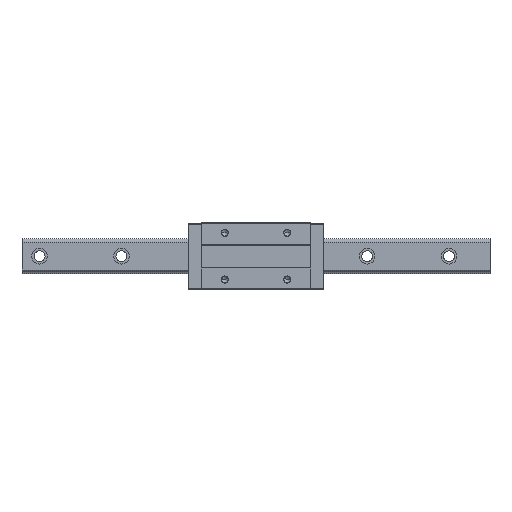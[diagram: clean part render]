
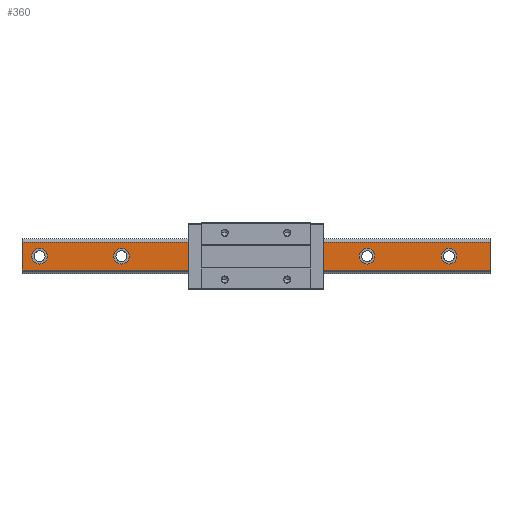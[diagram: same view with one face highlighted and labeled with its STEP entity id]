
A CAD part, top view. The second image highlights one B-rep face of the part: STEP entity #360.
In plain terms, the highlighted planar face has unit normal (0, 0, 1).
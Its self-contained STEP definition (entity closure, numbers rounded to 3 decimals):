
#1 = DIRECTION ( 'NONE',  ( 1., 0., 0. ) ) ;
#20 = CARTESIAN_POINT ( 'NONE',  ( 247.5, 0., 32. ) ) ;
#276 = AXIS2_PLACEMENT_3D ( 'NONE', #4456, #1462, #3193 ) ;
#347 = LINE ( 'NONE', #2092, #4652 ) ;
#349 = VECTOR ( 'NONE', #2094, 1000. ) ;
#357 = DIRECTION ( 'NONE',  ( 1., 0., 0. ) ) ;
#360 = ADVANCED_FACE ( 'NONE', ( #5163, #5113, #2915, #5055, #4231, #5534, #2591 ), #1204, .F. ) ;
#373 = CARTESIAN_POINT ( 'NONE',  ( 300., -17.696, 32. ) ) ;
#412 = DIRECTION ( 'NONE',  ( 1., 0., 0. ) ) ;
#420 = CIRCLE ( 'NONE', #1157, 10. ) ;
#425 = EDGE_CURVE ( 'NONE', #1844, #795, #2484, .T. ) ;
#448 = ORIENTED_EDGE ( 'NONE', *, *, #3651, .F. ) ;
#518 = CARTESIAN_POINT ( 'NONE',  ( -67.5, 0., 32. ) ) ;
#543 = CARTESIAN_POINT ( 'NONE',  ( -300., 17.696, 32. ) ) ;
#634 = EDGE_LOOP ( 'NONE', ( #2552, #2700, #673, #672 ) ) ;
#642 = DIRECTION ( 'NONE',  ( 1., 0., 0. ) ) ;
#672 = ORIENTED_EDGE ( 'NONE', *, *, #1591, .T. ) ;
#673 = ORIENTED_EDGE ( 'NONE', *, *, #2390, .F. ) ;
#753 = CARTESIAN_POINT ( 'NONE',  ( -300., -17.696, 32. ) ) ;
#788 = AXIS2_PLACEMENT_3D ( 'NONE', #2572, #4295, #412 ) ;
#795 = VERTEX_POINT ( 'NONE', #4684 ) ;
#942 = CARTESIAN_POINT ( 'NONE',  ( 142.5, 0., 32. ) ) ;
#985 = CARTESIAN_POINT ( 'NONE',  ( -172.5, 0., 32. ) ) ;
#1015 = CARTESIAN_POINT ( 'NONE',  ( 300., 17.696, 32. ) ) ;
#1019 = ORIENTED_EDGE ( 'NONE', *, *, #2933, .F. ) ;
#1023 = EDGE_CURVE ( 'NONE', #1619, #5344, #2898, .T. ) ;
#1079 = ORIENTED_EDGE ( 'NONE', *, *, #1692, .F. ) ;
#1120 = ORIENTED_EDGE ( 'NONE', *, *, #3212, .F. ) ;
#1157 = AXIS2_PLACEMENT_3D ( 'NONE', #1996, #1620, #357 ) ;
#1204 = PLANE ( 'NONE',  #4515 ) ;
#1241 = AXIS2_PLACEMENT_3D ( 'NONE', #985, #2293, #642 ) ;
#1302 = ORIENTED_EDGE ( 'NONE', *, *, #3309, .F. ) ;
#1362 = DIRECTION ( 'NONE',  ( 1., 0., 0. ) ) ;
#1452 = ORIENTED_EDGE ( 'NONE', *, *, #3830, .F. ) ;
#1462 = DIRECTION ( 'NONE',  ( 0., 0., 1. ) ) ;
#1503 = ORIENTED_EDGE ( 'NONE', *, *, #3579, .F. ) ;
#1513 = CARTESIAN_POINT ( 'NONE',  ( -267.5, 0., 32. ) ) ;
#1542 = EDGE_LOOP ( 'NONE', ( #3091, #3271 ) ) ;
#1591 = EDGE_CURVE ( 'NONE', #4438, #1844, #347, .T. ) ;
#1596 = AXIS2_PLACEMENT_3D ( 'NONE', #2515, #2889, #2490 ) ;
#1619 = VERTEX_POINT ( 'NONE', #4177 ) ;
#1620 = DIRECTION ( 'NONE',  ( 0., 0., 1. ) ) ;
#1692 = EDGE_CURVE ( 'NONE', #5603, #3533, #2941, .T. ) ;
#1700 = CARTESIAN_POINT ( 'NONE',  ( -182.5, 0., 32. ) ) ;
#1809 = CARTESIAN_POINT ( 'NONE',  ( 237.5, 0., 32. ) ) ;
#1815 = CARTESIAN_POINT ( 'NONE',  ( -77.5, 0., 32. ) ) ;
#1844 = VERTEX_POINT ( 'NONE', #543 ) ;
#1978 = CIRCLE ( 'NONE', #788, 10. ) ;
#1996 = CARTESIAN_POINT ( 'NONE',  ( 37.5, 0., 32. ) ) ;
#2055 = DIRECTION ( 'NONE',  ( 0., -1., 0. ) ) ;
#2092 = CARTESIAN_POINT ( 'NONE',  ( 300., 17.696, 32. ) ) ;
#2094 = DIRECTION ( 'NONE',  ( 0., -1., 0. ) ) ;
#2102 = AXIS2_PLACEMENT_3D ( 'NONE', #20, #5183, #2170 ) ;
#2120 = CARTESIAN_POINT ( 'NONE',  ( 300., -17.696, 32. ) ) ;
#2126 = AXIS2_PLACEMENT_3D ( 'NONE', #3489, #3836, #5212 ) ;
#2170 = DIRECTION ( 'NONE',  ( 1., 0., 0. ) ) ;
#2253 = VERTEX_POINT ( 'NONE', #1815 ) ;
#2263 = AXIS2_PLACEMENT_3D ( 'NONE', #4399, #3874, #1 ) ;
#2293 = DIRECTION ( 'NONE',  ( 0., 0., 1. ) ) ;
#2353 = CARTESIAN_POINT ( 'NONE',  ( -162.5, 0., 32. ) ) ;
#2390 = EDGE_CURVE ( 'NONE', #4438, #2748, #3317, .T. ) ;
#2402 = CIRCLE ( 'NONE', #3556, 10. ) ;
#2412 = EDGE_LOOP ( 'NONE', ( #3116, #1120 ) ) ;
#2413 = EDGE_LOOP ( 'NONE', ( #4964, #1452 ) ) ;
#2484 = LINE ( 'NONE', #753, #349 ) ;
#2489 = DIRECTION ( 'NONE',  ( 0., 0., 1. ) ) ;
#2490 = DIRECTION ( 'NONE',  ( 1., 0., 0. ) ) ;
#2509 = CIRCLE ( 'NONE', #5401, 10. ) ;
#2513 = DIRECTION ( 'NONE',  ( 0., 0., 1. ) ) ;
#2515 = CARTESIAN_POINT ( 'NONE',  ( 247.5, 0., 32. ) ) ;
#2538 = CARTESIAN_POINT ( 'NONE',  ( 47.5, 0., 32. ) ) ;
#2552 = ORIENTED_EDGE ( 'NONE', *, *, #425, .T. ) ;
#2564 = AXIS2_PLACEMENT_3D ( 'NONE', #4322, #3004, #2954 ) ;
#2572 = CARTESIAN_POINT ( 'NONE',  ( -67.5, 0., 32. ) ) ;
#2591 = FACE_OUTER_BOUND ( 'NONE', #634, .T. ) ;
#2634 = CIRCLE ( 'NONE', #276, 10. ) ;
#2648 = CARTESIAN_POINT ( 'NONE',  ( 27.5, 0., 32. ) ) ;
#2668 = CIRCLE ( 'NONE', #1596, 10. ) ;
#2700 = ORIENTED_EDGE ( 'NONE', *, *, #3932, .F. ) ;
#2748 = VERTEX_POINT ( 'NONE', #4196 ) ;
#2818 = CIRCLE ( 'NONE', #5242, 10. ) ;
#2882 = DIRECTION ( 'NONE',  ( -1., 0., 0. ) ) ;
#2889 = DIRECTION ( 'NONE',  ( 0., 0., 1. ) ) ;
#2898 = CIRCLE ( 'NONE', #2263, 10. ) ;
#2915 = FACE_BOUND ( 'NONE', #4660, .T. ) ;
#2933 = EDGE_CURVE ( 'NONE', #3467, #3455, #420, .T. ) ;
#2941 = CIRCLE ( 'NONE', #2126, 10. ) ;
#2954 = DIRECTION ( 'NONE',  ( 1., 0., 0. ) ) ;
#3004 = DIRECTION ( 'NONE',  ( 0., 0., 1. ) ) ;
#3091 = ORIENTED_EDGE ( 'NONE', *, *, #5485, .F. ) ;
#3113 = VERTEX_POINT ( 'NONE', #5566 ) ;
#3116 = ORIENTED_EDGE ( 'NONE', *, *, #5036, .F. ) ;
#3144 = EDGE_CURVE ( 'NONE', #3113, #2253, #1978, .T. ) ;
#3193 = DIRECTION ( 'NONE',  ( 1., 0., 0. ) ) ;
#3212 = EDGE_CURVE ( 'NONE', #4712, #5293, #3321, .T. ) ;
#3271 = ORIENTED_EDGE ( 'NONE', *, *, #1023, .F. ) ;
#3309 = EDGE_CURVE ( 'NONE', #3455, #3467, #2509, .T. ) ;
#3317 = LINE ( 'NONE', #4164, #4583 ) ;
#3321 = CIRCLE ( 'NONE', #1241, 10. ) ;
#3356 = DIRECTION ( 'NONE',  ( -1., 0., 0. ) ) ;
#3377 = LINE ( 'NONE', #373, #3445 ) ;
#3426 = EDGE_LOOP ( 'NONE', ( #1302, #1019 ) ) ;
#3445 = VECTOR ( 'NONE', #4335, 1000. ) ;
#3455 = VERTEX_POINT ( 'NONE', #2538 ) ;
#3467 = VERTEX_POINT ( 'NONE', #2648 ) ;
#3489 = CARTESIAN_POINT ( 'NONE',  ( -277.5, 0., 32. ) ) ;
#3501 = ORIENTED_EDGE ( 'NONE', *, *, #3144, .F. ) ;
#3533 = VERTEX_POINT ( 'NONE', #5304 ) ;
#3545 = DIRECTION ( 'NONE',  ( 1., 0., 0. ) ) ;
#3556 = AXIS2_PLACEMENT_3D ( 'NONE', #942, #2489, #1362 ) ;
#3579 = EDGE_CURVE ( 'NONE', #2253, #3113, #2818, .T. ) ;
#3651 = EDGE_CURVE ( 'NONE', #3533, #5603, #2634, .T. ) ;
#3811 = CIRCLE ( 'NONE', #2102, 10. ) ;
#3830 = EDGE_CURVE ( 'NONE', #5169, #4277, #3811, .T. ) ;
#3836 = DIRECTION ( 'NONE',  ( 0., 0., 1. ) ) ;
#3874 = DIRECTION ( 'NONE',  ( 0., 0., 1. ) ) ;
#3905 = CARTESIAN_POINT ( 'NONE',  ( 257.5, 0., 32. ) ) ;
#3932 = EDGE_CURVE ( 'NONE', #2748, #795, #3377, .T. ) ;
#4128 = CARTESIAN_POINT ( 'NONE',  ( 37.5, 0., 32. ) ) ;
#4164 = CARTESIAN_POINT ( 'NONE',  ( 300., -17.696, 32. ) ) ;
#4177 = CARTESIAN_POINT ( 'NONE',  ( 132.5, 0., 32. ) ) ;
#4196 = CARTESIAN_POINT ( 'NONE',  ( 300., -17.696, 32. ) ) ;
#4231 = FACE_BOUND ( 'NONE', #1542, .T. ) ;
#4269 = EDGE_LOOP ( 'NONE', ( #1079, #448 ) ) ;
#4277 = VERTEX_POINT ( 'NONE', #3905 ) ;
#4295 = DIRECTION ( 'NONE',  ( 0., 0., 1. ) ) ;
#4312 = DIRECTION ( 'NONE',  ( 0., 0., -1. ) ) ;
#4322 = CARTESIAN_POINT ( 'NONE',  ( -172.5, 0., 32. ) ) ;
#4335 = DIRECTION ( 'NONE',  ( -1., 0., 0. ) ) ;
#4399 = CARTESIAN_POINT ( 'NONE',  ( 142.5, 0., 32. ) ) ;
#4438 = VERTEX_POINT ( 'NONE', #1015 ) ;
#4456 = CARTESIAN_POINT ( 'NONE',  ( -277.5, 0., 32. ) ) ;
#4515 = AXIS2_PLACEMENT_3D ( 'NONE', #2120, #4312, #3356 ) ;
#4551 = EDGE_CURVE ( 'NONE', #4277, #5169, #2668, .T. ) ;
#4574 = DIRECTION ( 'NONE',  ( 1., 0., 0. ) ) ;
#4583 = VECTOR ( 'NONE', #2055, 1000. ) ;
#4652 = VECTOR ( 'NONE', #2882, 1000. ) ;
#4660 = EDGE_LOOP ( 'NONE', ( #3501, #1503 ) ) ;
#4684 = CARTESIAN_POINT ( 'NONE',  ( -300., -17.696, 32. ) ) ;
#4712 = VERTEX_POINT ( 'NONE', #1700 ) ;
#4817 = DIRECTION ( 'NONE',  ( 0., 0., 1. ) ) ;
#4948 = CARTESIAN_POINT ( 'NONE',  ( 152.5, 0., 32. ) ) ;
#4964 = ORIENTED_EDGE ( 'NONE', *, *, #4551, .F. ) ;
#5004 = CIRCLE ( 'NONE', #2564, 10. ) ;
#5036 = EDGE_CURVE ( 'NONE', #5293, #4712, #5004, .T. ) ;
#5055 = FACE_BOUND ( 'NONE', #3426, .T. ) ;
#5113 = FACE_BOUND ( 'NONE', #2412, .T. ) ;
#5163 = FACE_BOUND ( 'NONE', #4269, .T. ) ;
#5169 = VERTEX_POINT ( 'NONE', #1809 ) ;
#5183 = DIRECTION ( 'NONE',  ( 0., 0., 1. ) ) ;
#5212 = DIRECTION ( 'NONE',  ( 1., 0., 0. ) ) ;
#5242 = AXIS2_PLACEMENT_3D ( 'NONE', #518, #4817, #3545 ) ;
#5293 = VERTEX_POINT ( 'NONE', #2353 ) ;
#5304 = CARTESIAN_POINT ( 'NONE',  ( -287.5, 0., 32. ) ) ;
#5344 = VERTEX_POINT ( 'NONE', #4948 ) ;
#5401 = AXIS2_PLACEMENT_3D ( 'NONE', #4128, #2513, #4574 ) ;
#5485 = EDGE_CURVE ( 'NONE', #5344, #1619, #2402, .T. ) ;
#5534 = FACE_BOUND ( 'NONE', #2413, .T. ) ;
#5566 = CARTESIAN_POINT ( 'NONE',  ( -57.5, 0., 32. ) ) ;
#5603 = VERTEX_POINT ( 'NONE', #1513 ) ;
